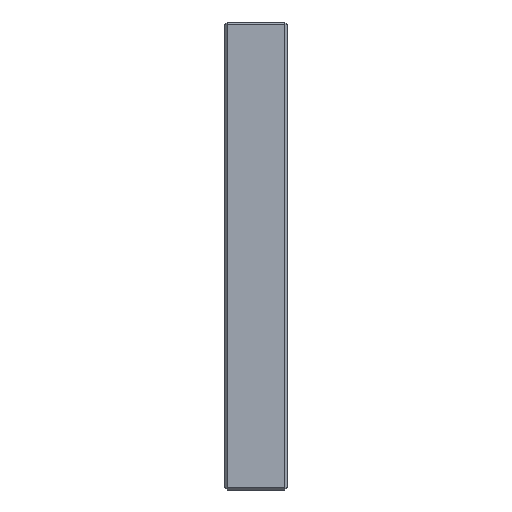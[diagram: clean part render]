
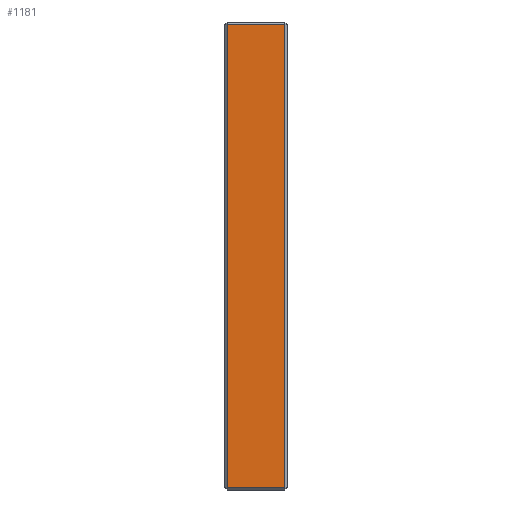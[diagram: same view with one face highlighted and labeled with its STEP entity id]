
A CAD part, left-side view. The second image highlights one B-rep face of the part: STEP entity #1181.
In plain terms, the highlighted planar face has unit normal (-1, 0, 0).
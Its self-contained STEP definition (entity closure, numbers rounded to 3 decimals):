
#70 = VERTEX_POINT ( 'NONE', #854 ) ;
#98 = EDGE_LOOP ( 'NONE', ( #580, #352, #446, #331 ) ) ;
#209 = CARTESIAN_POINT ( 'NONE',  ( -30., 4., 29.7 ) ) ;
#215 = VERTEX_POINT ( 'NONE', #308 ) ;
#221 = LINE ( 'NONE', #1287, #1243 ) ;
#288 = EDGE_CURVE ( 'NONE', #679, #215, #221, .T. ) ;
#308 = CARTESIAN_POINT ( 'NONE',  ( -30., -3.7, 29.7 ) ) ;
#331 = ORIENTED_EDGE ( 'NONE', *, *, #353, .T. ) ;
#352 = ORIENTED_EDGE ( 'NONE', *, *, #796, .T. ) ;
#353 = EDGE_CURVE ( 'NONE', #215, #70, #1054, .T. ) ;
#432 = DIRECTION ( 'NONE',  ( 0., 0., -1. ) ) ;
#440 = VECTOR ( 'NONE', #678, 1000. ) ;
#446 = ORIENTED_EDGE ( 'NONE', *, *, #288, .T. ) ;
#447 = DIRECTION ( 'NONE',  ( 1., 0., 0. ) ) ;
#570 = AXIS2_PLACEMENT_3D ( 'NONE', #1278, #447, #681 ) ;
#575 = VERTEX_POINT ( 'NONE', #1359 ) ;
#580 = ORIENTED_EDGE ( 'NONE', *, *, #1507, .T. ) ;
#589 = CARTESIAN_POINT ( 'NONE',  ( -30., 4., -29.7 ) ) ;
#678 = DIRECTION ( 'NONE',  ( 0., 1., 0. ) ) ;
#679 = VERTEX_POINT ( 'NONE', #818 ) ;
#681 = DIRECTION ( 'NONE',  ( 0., 0., -1. ) ) ;
#694 = DIRECTION ( 'NONE',  ( 0., 0., 1. ) ) ;
#796 = EDGE_CURVE ( 'NONE', #575, #679, #857, .T. ) ;
#801 = PLANE ( 'NONE',  #570 ) ;
#818 = CARTESIAN_POINT ( 'NONE',  ( -30., -3.7, -29.7 ) ) ;
#824 = DIRECTION ( 'NONE',  ( 0., -1., 0. ) ) ;
#854 = CARTESIAN_POINT ( 'NONE',  ( -30., 3.7, 29.7 ) ) ;
#857 = LINE ( 'NONE', #589, #993 ) ;
#916 = LINE ( 'NONE', #1502, #1038 ) ;
#993 = VECTOR ( 'NONE', #824, 1000. ) ;
#1034 = FACE_OUTER_BOUND ( 'NONE', #98, .T. ) ;
#1038 = VECTOR ( 'NONE', #432, 1000. ) ;
#1054 = LINE ( 'NONE', #209, #440 ) ;
#1181 = ADVANCED_FACE ( 'NONE', ( #1034 ), #801, .F. ) ;
#1243 = VECTOR ( 'NONE', #694, 1000. ) ;
#1278 = CARTESIAN_POINT ( 'NONE',  ( -30., 4., -30. ) ) ;
#1287 = CARTESIAN_POINT ( 'NONE',  ( -30., -3.7, -30. ) ) ;
#1359 = CARTESIAN_POINT ( 'NONE',  ( -30., 3.7, -29.7 ) ) ;
#1502 = CARTESIAN_POINT ( 'NONE',  ( -30., 3.7, -30. ) ) ;
#1507 = EDGE_CURVE ( 'NONE', #70, #575, #916, .T. ) ;
